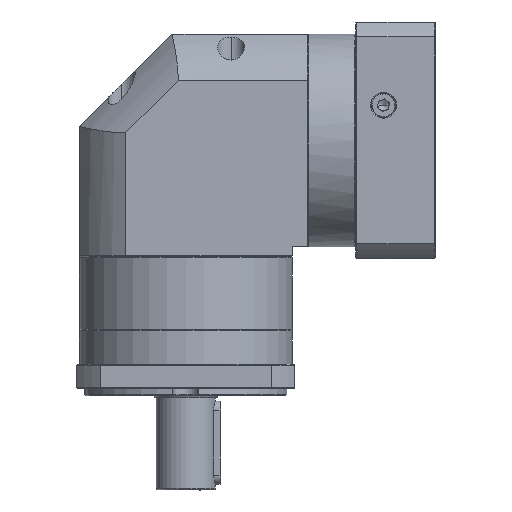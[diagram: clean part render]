
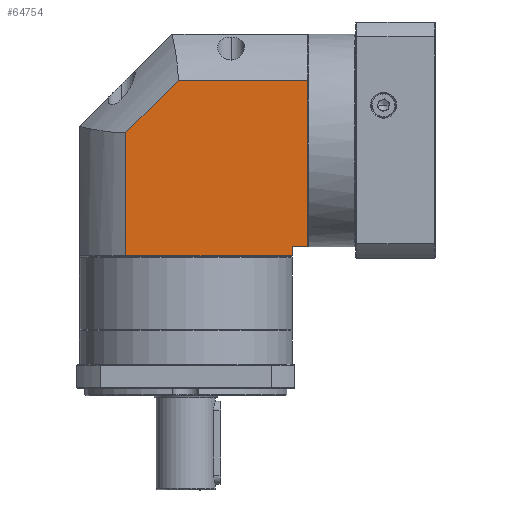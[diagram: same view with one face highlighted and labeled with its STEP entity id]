
A CAD part, front view. The second image highlights one B-rep face of the part: STEP entity #64754.
In plain terms, the highlighted planar face has unit normal (0, -1, 0).
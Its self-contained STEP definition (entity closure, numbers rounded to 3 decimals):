
#2401 = ORIENTED_EDGE ( 'NONE', *, *, #30378, .F. ) ;
#15214 = VECTOR ( 'NONE', #134575, 1000. ) ;
#15854 = CARTESIAN_POINT ( 'NONE',  ( 9.394, -14.816, -2.261 ) ) ;
#21211 = CARTESIAN_POINT ( 'NONE',  ( -15.707, -14.816, -75.322 ) ) ;
#21615 = DIRECTION ( 'NONE',  ( 0., 0., 1. ) ) ;
#28556 = CARTESIAN_POINT ( 'NONE',  ( 37.732, -14.816, 26.078 ) ) ;
#28694 = ORIENTED_EDGE ( 'NONE', *, *, #34054, .F. ) ;
#30378 = EDGE_CURVE ( 'NONE', #68632, #108530, #88238, .T. ) ;
#33120 = DIRECTION ( 'NONE',  ( 1., 0., 0. ) ) ;
#34054 = EDGE_CURVE ( 'NONE', #108530, #122022, #121877, .T. ) ;
#41762 = LINE ( 'NONE', #109899, #113238 ) ;
#44892 = CARTESIAN_POINT ( 'NONE',  ( 99.293, -14.816, -63.822 ) ) ;
#47165 = LINE ( 'NONE', #105281, #126688 ) ;
#50564 = VECTOR ( 'NONE', #98538, 1000. ) ;
#50736 = FACE_OUTER_BOUND ( 'NONE', #128852, .T. ) ;
#52949 = EDGE_CURVE ( 'NONE', #106019, #115552, #109648, .T. ) ;
#57534 = EDGE_CURVE ( 'NONE', #125854, #68632, #60295, .T. ) ;
#57654 = VECTOR ( 'NONE', #57920, 1000. ) ;
#57920 = DIRECTION ( 'NONE',  ( 0.707, 0., 0.707 ) ) ;
#58263 = CARTESIAN_POINT ( 'NONE',  ( 107.693, -14.816, -63.822 ) ) ;
#60295 = LINE ( 'NONE', #74406, #50564 ) ;
#62412 = PLANE ( 'NONE',  #100092 ) ;
#64754 = ADVANCED_FACE ( 'NONE', ( #50736 ), #62412, .F. ) ;
#68632 = VERTEX_POINT ( 'NONE', #44892 ) ;
#69771 = EDGE_CURVE ( 'NONE', #74035, #125854, #41762, .T. ) ;
#72391 = DIRECTION ( 'NONE',  ( -1., 0., 0. ) ) ;
#74035 = VERTEX_POINT ( 'NONE', #79358 ) ;
#74406 = CARTESIAN_POINT ( 'NONE',  ( -15.707, -14.816, -63.822 ) ) ;
#76178 = ORIENTED_EDGE ( 'NONE', *, *, #57534, .F. ) ;
#79358 = CARTESIAN_POINT ( 'NONE',  ( 107.693, -14.816, 26.078 ) ) ;
#82982 = CARTESIAN_POINT ( 'NONE',  ( 9.394, -14.816, -68.822 ) ) ;
#87765 = ORIENTED_EDGE ( 'NONE', *, *, #69771, .F. ) ;
#88238 = LINE ( 'NONE', #103849, #15214 ) ;
#89723 = EDGE_CURVE ( 'NONE', #115552, #74035, #47165, .T. ) ;
#89804 = CARTESIAN_POINT ( 'NONE',  ( -15.707, -14.816, -68.822 ) ) ;
#93780 = ORIENTED_EDGE ( 'NONE', *, *, #89723, .F. ) ;
#96319 = CARTESIAN_POINT ( 'NONE',  ( 99.293, -14.816, -68.822 ) ) ;
#98538 = DIRECTION ( 'NONE',  ( -1., 0., 0. ) ) ;
#100092 = AXIS2_PLACEMENT_3D ( 'NONE', #21211, #114172, #125916 ) ;
#103849 = CARTESIAN_POINT ( 'NONE',  ( 99.293, -14.816, -75.322 ) ) ;
#105281 = CARTESIAN_POINT ( 'NONE',  ( -15.707, -14.816, 26.078 ) ) ;
#105837 = LINE ( 'NONE', #115914, #110601 ) ;
#106019 = VERTEX_POINT ( 'NONE', #120964 ) ;
#108530 = VERTEX_POINT ( 'NONE', #96319 ) ;
#109648 = LINE ( 'NONE', #15854, #57654 ) ;
#109899 = CARTESIAN_POINT ( 'NONE',  ( 107.693, -14.816, -75.322 ) ) ;
#110601 = VECTOR ( 'NONE', #21615, 1000. ) ;
#113238 = VECTOR ( 'NONE', #120289, 1000. ) ;
#114172 = DIRECTION ( 'NONE',  ( 0., 1., 0. ) ) ;
#115552 = VERTEX_POINT ( 'NONE', #28556 ) ;
#115914 = CARTESIAN_POINT ( 'NONE',  ( 9.394, -14.816, -75.322 ) ) ;
#117707 = EDGE_CURVE ( 'NONE', #122022, #106019, #105837, .T. ) ;
#120289 = DIRECTION ( 'NONE',  ( 0., 0., -1. ) ) ;
#120964 = CARTESIAN_POINT ( 'NONE',  ( 9.394, -14.816, -2.261 ) ) ;
#121877 = LINE ( 'NONE', #89804, #125273 ) ;
#122022 = VERTEX_POINT ( 'NONE', #82982 ) ;
#123950 = ORIENTED_EDGE ( 'NONE', *, *, #52949, .F. ) ;
#125273 = VECTOR ( 'NONE', #72391, 1000. ) ;
#125854 = VERTEX_POINT ( 'NONE', #58263 ) ;
#125916 = DIRECTION ( 'NONE',  ( 1., 0., 0. ) ) ;
#126688 = VECTOR ( 'NONE', #33120, 1000. ) ;
#128852 = EDGE_LOOP ( 'NONE', ( #2401, #76178, #87765, #93780, #123950, #132594, #28694 ) ) ;
#132594 = ORIENTED_EDGE ( 'NONE', *, *, #117707, .F. ) ;
#134575 = DIRECTION ( 'NONE',  ( 0., 0., -1. ) ) ;
